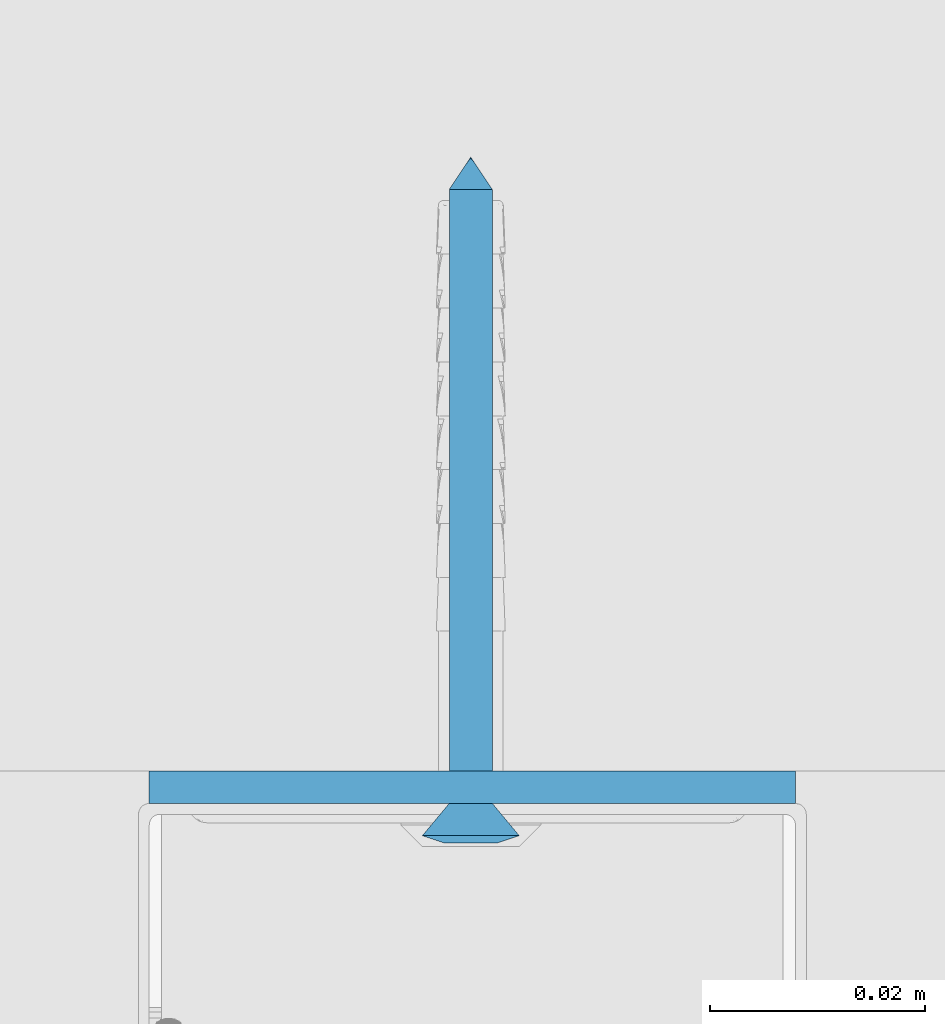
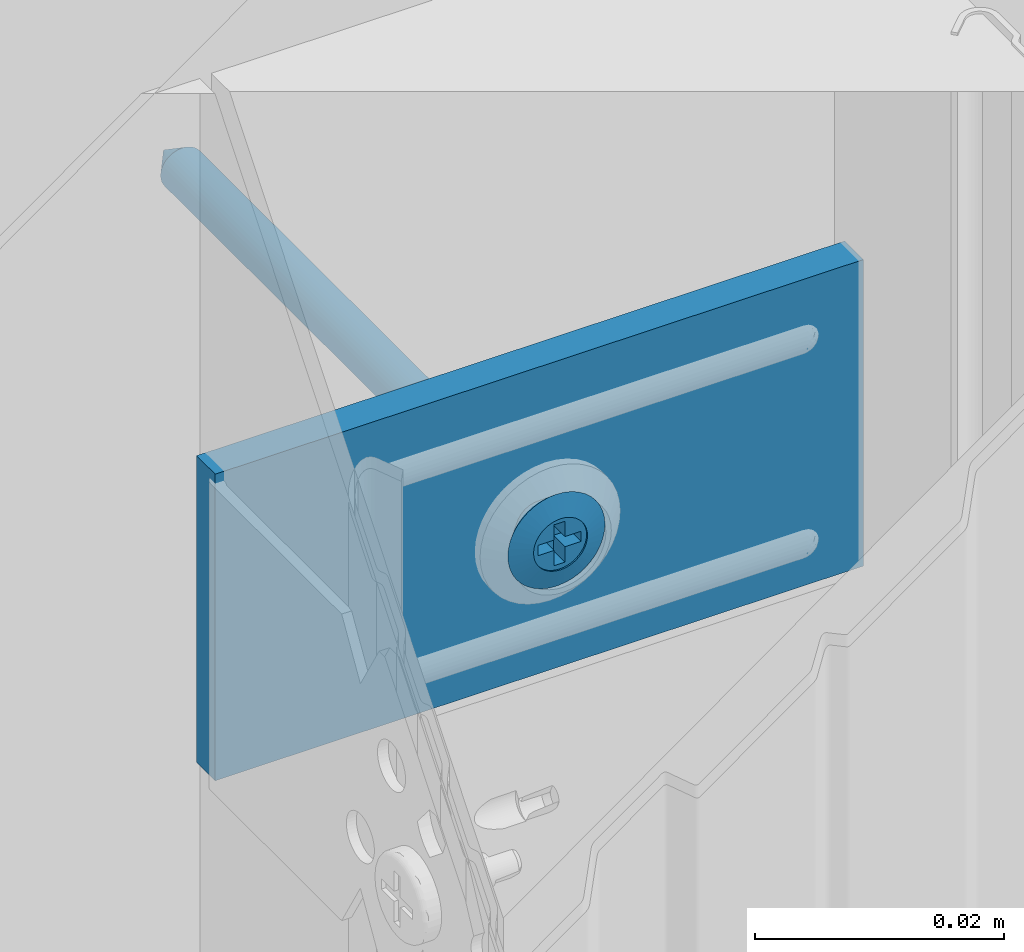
# One storey, part 36 of 47: 2 walls.
"""IFC2X3 building model written with IfcOpenShell, lengths in millimetres."""

from ifc_helpers import new_model, entity, si_unit, converted_unit, direction, frame, origin, origin_with_axes, place, context, project, spatial, faceted_brep, element, save


model = new_model("IFC2X3")

# Units and contexts
model_context = context("Model", 3, precision=1e-05, world=origin(), true_north=direction((0.0, 1.0, 0.0)))
ifc_project = project(units=[si_unit("LENGTHUNIT", "METRE", prefix="MILLI"), si_unit("AREAUNIT", "SQUARE_METRE"), si_unit("VOLUMEUNIT", "CUBIC_METRE"), converted_unit("PLANEANGLEUNIT", "DEGREE", entity("IfcPlaneAngleMeasure", 0.01745), si_unit("PLANEANGLEUNIT", "RADIAN"), dimensions=[0, 0, 0, 0, 0, 0, 0]), si_unit("SOLIDANGLEUNIT", "STERADIAN"), si_unit("MASSUNIT", "GRAM"), si_unit("TIMEUNIT", "SECOND"), si_unit("THERMODYNAMICTEMPERATUREUNIT", "DEGREE_CELSIUS"), si_unit("LUMINOUSINTENSITYUNIT", "LUMEN")], contexts=[model_context])

# Site, building, storey
site_placement = place(None, origin_with_axes())
site = spatial("IfcSite", under=ifc_project, at=site_placement, Name="Default Site", CompositionType="ELEMENT")
building_placement = place(site_placement, origin_with_axes())
building = spatial("IfcBuilding", under=site, at=building_placement, Name="Default Building", CompositionType="ELEMENT")
storey_placement = place(building_placement, origin_with_axes())
storey = spatial("IfcBuildingStorey", under=building, at=storey_placement, Name="Default Building Storey", CompositionType="ELEMENT", Elevation=0.0)

# Walls
wall_1_placement = place(storey_placement, frame((6356.176283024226, 2016.32861108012, 2539.671890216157), z_axis=(-6.858158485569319e-13, -1.0, 7.642380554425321e-14), x_axis=(-1.647602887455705e-11, 7.642380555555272e-14, 1.0)))
element("IfcWall", 1, at=wall_1_placement, inside=storey, Name="Kołek rozporowy min. fi 6", context=model_context, shape_type="Brep", body=[
    faceted_brep([(-1438.31414949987, 3453.283223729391, -0.4642567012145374), (-1435.814149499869, 3453.283223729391, -3.464256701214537), (-1435.78952618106, 3452.97035479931, -3.464256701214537), (-1438.258747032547, 3452.57926863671, -0.4642567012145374), (-1435.71626253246, 3452.665189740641, -3.464256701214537), (-1438.093903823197, 3451.892647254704, -0.4642567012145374), (-1435.596162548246, 3452.375242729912, -3.464256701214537), (-1437.823678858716, 3451.240266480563, -0.4642567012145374), (-1435.432183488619, 3452.107653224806, -3.464256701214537), (-1437.454725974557, 3450.638190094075, -0.4642567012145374), (-1435.228363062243, 3451.869010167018, -3.464256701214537), (-1436.996130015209, 3450.101243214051, -0.4642567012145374), (-1434.989720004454, 3451.665189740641, -3.464256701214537), (-1436.459183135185, 3449.642647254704, -0.4642567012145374), (-1434.722130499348, 3451.501210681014, -3.464256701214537), (-1435.857106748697, 3449.273694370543, -0.4642567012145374), (-1434.432183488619, 3451.381110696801, -3.464256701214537), (-1435.204725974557, 3449.003469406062, -0.4642567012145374), (-1434.12701842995, 3451.307847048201, -3.464256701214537), (-1434.51810459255, 3448.838626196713, -0.4642567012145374), (-1433.814149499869, 3451.283223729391, -3.464256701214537), (-1433.814149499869, 3448.783223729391, -0.4642567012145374), (-1433.501280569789, 3451.307847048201, -3.464256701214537), (-1433.110194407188, 3448.838626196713, -0.4642567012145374), (-1433.19611551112, 3451.381110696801, -3.464256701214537), (-1432.423573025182, 3449.003469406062, -0.4642567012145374), (-1432.906168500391, 3451.501210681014, -3.464256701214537), (-1431.771192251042, 3449.273694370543, -0.4642567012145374), (-1432.638578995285, 3451.665189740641, -3.464256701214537), (-1431.169115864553, 3449.642647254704, -0.4642567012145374), (-1432.399935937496, 3451.869010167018, -3.464256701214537), (-1430.63216898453, 3450.101243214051, -0.4642567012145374), (-1432.196115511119, 3452.107653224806, -3.464256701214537), (-1430.173573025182, 3450.638190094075, -0.4642567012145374), (-1432.032136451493, 3452.375242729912, -3.464256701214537), (-1429.804620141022, 3451.240266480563, -0.4642567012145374), (-1431.912036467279, 3452.665189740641, -3.464256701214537), (-1429.534395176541, 3451.892647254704, -0.4642567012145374), (-1431.838772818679, 3453.596092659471, -3.464256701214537), (-1429.369551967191, 3453.987178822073, -0.4642567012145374), (-1429.314149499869, 3453.283223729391, -0.4642567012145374), (-1431.81414949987, 3453.283223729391, -3.464256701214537), (-1429.369551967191, 3452.57926863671, -0.4642567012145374), (-1431.838772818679, 3452.97035479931, -3.464256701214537), (-1431.912036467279, 3453.901257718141, -3.464256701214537), (-1429.534395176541, 3454.673800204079, -0.4642567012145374), (-1432.032136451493, 3454.19120472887, -3.464256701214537), (-1429.804620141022, 3455.326180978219, -0.4642567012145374), (-1432.196115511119, 3454.458794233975, -3.464256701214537), (-1430.173573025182, 3455.928257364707, -0.4642567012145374), (-1432.399935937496, 3454.697437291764, -3.464256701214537), (-1430.63216898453, 3456.465204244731, -0.4642567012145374), (-1432.638578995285, 3454.901257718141, -3.464256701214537), (-1431.169115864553, 3456.923800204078, -0.4642567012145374), (-1432.906168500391, 3455.065236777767, -3.464256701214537), (-1431.771192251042, 3457.292753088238, -0.4642567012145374), (-1433.19611551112, 3455.185336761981, -3.464256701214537), (-1432.423573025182, 3457.562978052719, -0.4642567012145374), (-1433.501280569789, 3455.258600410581, -3.464256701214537), (-1433.110194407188, 3457.727821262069, -0.4642567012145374), (-1433.814149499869, 3455.283223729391, -3.464256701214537), (-1433.814149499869, 3457.783223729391, -0.4642567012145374), (-1434.34306778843, 3457.752031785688, -0.4642567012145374), (-1434.12701842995, 3455.258600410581, -3.464256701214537), (-1434.432183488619, 3455.185336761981, -3.464256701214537), (-1434.864653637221, 3457.658888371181, -0.4642567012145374), (-1435.371676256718, 3457.505084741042, -0.4642567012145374), (-1434.722130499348, 3455.065236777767, -3.464256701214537), (-1435.857106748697, 3457.292753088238, -0.4642567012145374), (-1434.989720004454, 3454.901257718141, -3.464256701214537), (-1435.228363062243, 3454.697437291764, -3.464256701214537), (-1436.314215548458, 3457.024836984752, -0.4642567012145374), (-1436.736665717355, 3456.705050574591, -0.4642567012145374), (-1437.11860079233, 3456.337827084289, -0.4642567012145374), (-1437.454725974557, 3455.928257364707, -0.4642567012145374), (-1435.432183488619, 3454.458794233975, -3.464256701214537), (-1435.596162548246, 3454.19120472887, -3.464256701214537), (-1437.823678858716, 3455.326180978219, -0.4642567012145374), (-1435.71626253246, 3453.901257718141, -3.464256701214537), (-1438.093903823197, 3454.673800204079, -0.4642567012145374), (-1435.78952618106, 3453.596092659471, -3.464256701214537), (-1438.258747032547, 3453.987178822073, -0.4642567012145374), (-1434.205235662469, 3455.752444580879, 0.2007375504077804), (-1433.814149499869, 3455.78322372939, 0.2007375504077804), (-1434.586691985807, 3455.660865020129, 0.2007375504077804), (-1434.949125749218, 3455.510740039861, 0.2007375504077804), (-1435.283612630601, 3455.305766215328, 0.2007375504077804), (-1435.581916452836, 3455.050990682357, 0.2007375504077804), (-1435.836691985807, 3454.752686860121, 0.2007375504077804), (-1436.04166581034, 3454.41819997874, 0.2007375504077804), (-1436.191790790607, 3454.055766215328, 0.2007375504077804), (-1436.283370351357, 3453.674309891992, 0.2007375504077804), (-1436.314149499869, 3453.283223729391, 0.2007375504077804), (-1436.283370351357, 3452.892137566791, 0.2007375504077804), (-1436.191790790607, 3452.510681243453, 0.2007375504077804), (-1436.04166581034, 3452.148247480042, 0.2007375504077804), (-1435.836691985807, 3451.81376059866, 0.200737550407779), (-1435.581916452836, 3451.515456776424, 0.2007375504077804), (-1435.283612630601, 3451.260681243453, 0.2007375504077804), (-1434.949125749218, 3451.05570741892, 0.2007375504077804), (-1434.586691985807, 3450.905582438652, 0.2007375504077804), (-1433.423063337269, 3450.814002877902, 0.2007375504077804), (-1433.814149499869, 3450.783223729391, 0.2007375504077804), (-1434.205235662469, 3450.814002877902, 0.2007375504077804), (-1433.041607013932, 3450.905582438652, 0.2007375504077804), (-1432.67917325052, 3451.05570741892, 0.2007375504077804), (-1432.344686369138, 3451.260681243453, 0.2007375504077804), (-1432.046382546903, 3451.515456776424, 0.2007375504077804), (-1431.791607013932, 3451.81376059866, 0.2007375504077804), (-1431.586633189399, 3452.148247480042, 0.2007375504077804), (-1431.436508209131, 3452.510681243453, 0.2007375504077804), (-1431.344928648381, 3452.892137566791, 0.2007375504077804), (-1431.314149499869, 3453.283223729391, 0.2007375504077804), (-1431.344928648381, 3453.674309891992, 0.2007375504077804), (-1431.436508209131, 3454.055766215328, 0.2007375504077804), (-1431.586633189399, 3454.41819997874, 0.2007375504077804), (-1431.791607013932, 3454.752686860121, 0.2007375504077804), (-1432.046382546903, 3455.050990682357, 0.2007375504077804), (-1432.344686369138, 3455.305766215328, 0.2007375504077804), (-1432.67917325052, 3455.510740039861, 0.2007375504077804), (-1433.041607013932, 3455.660865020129, 0.2007375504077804), (-1433.423063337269, 3455.752444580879, 0.2007375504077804), (-1433.814149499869, 3453.283223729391, -63.46425670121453), (-1435.789526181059, 3452.97035479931, -60.46425670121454), (-1435.814149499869, 3453.283223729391, -60.46425670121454), (-1435.716262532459, 3452.665189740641, -60.46425670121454), (-1435.596162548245, 3452.375242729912, -60.46425670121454), (-1435.432183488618, 3452.107653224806, -60.46425670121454), (-1435.228363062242, 3451.869010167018, -60.46425670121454), (-1434.989720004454, 3451.665189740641, -60.46425670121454), (-1434.722130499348, 3451.501210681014, -60.46425670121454), (-1434.432183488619, 3451.381110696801, -60.46425670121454), (-1434.127018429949, 3451.307847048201, -60.46425670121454), (-1433.814149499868, 3451.283223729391, -60.46425670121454), (-1433.501280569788, 3451.307847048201, -60.46425670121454), (-1433.196115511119, 3451.381110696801, -60.46425670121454), (-1432.90616850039, 3451.501210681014, -60.46425670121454), (-1432.638578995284, 3451.665189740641, -60.46425670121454), (-1432.399935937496, 3451.869010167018, -60.46425670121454), (-1432.196115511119, 3452.107653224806, -60.46425670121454), (-1432.032136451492, 3452.375242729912, -60.46425670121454), (-1431.912036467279, 3452.665189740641, -60.46425670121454), (-1431.838772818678, 3452.97035479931, -60.46425670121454), (-1431.814149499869, 3453.283223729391, -60.46425670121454), (-1431.838772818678, 3453.596092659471, -60.46425670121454), (-1431.912036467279, 3453.901257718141, -60.46425670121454), (-1432.032136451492, 3454.19120472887, -60.46425670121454), (-1432.196115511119, 3454.458794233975, -60.46425670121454), (-1432.399935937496, 3454.697437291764, -60.46425670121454), (-1432.638578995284, 3454.901257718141, -60.46425670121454), (-1432.90616850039, 3455.065236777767, -60.46425670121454), (-1433.196115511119, 3455.185336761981, -60.46425670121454), (-1433.501280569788, 3455.258600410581, -60.46425670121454), (-1433.814149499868, 3455.283223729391, -60.46425670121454), (-1434.127018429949, 3455.258600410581, -60.46425670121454), (-1434.432183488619, 3455.185336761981, -60.46425670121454), (-1434.722130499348, 3455.065236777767, -60.46425670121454), (-1434.989720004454, 3454.901257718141, -60.46425670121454), (-1435.228363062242, 3454.697437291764, -60.46425670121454), (-1435.432183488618, 3454.458794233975, -60.46425670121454), (-1435.596162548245, 3454.19120472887, -60.46425670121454), (-1435.716262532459, 3453.901257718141, -60.46425670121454), (-1435.789526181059, 3453.596092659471, -60.46425670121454), (-1435.814149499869, 3453.783223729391, 0.04999999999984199), (-1436.04166581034, 3454.41819997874, 0.04999999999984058), (-1436.191790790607, 3454.055766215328, 0.04999999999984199), (-1435.814149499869, 3452.783223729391, 0.04999999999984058), (-1434.314149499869, 3453.783223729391, 0.04999999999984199), (-1434.314149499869, 3455.28322372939, 0.04999999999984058), (-1433.314149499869, 3455.28322372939, 0.04999999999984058), (-1433.314149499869, 3453.783223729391, 0.04999999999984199), (-1431.814149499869, 3453.783223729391, 0.04999999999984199), (-1431.814149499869, 3452.783223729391, 0.04999999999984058), (-1433.314149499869, 3452.783223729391, 0.04999999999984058), (-1433.314149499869, 3451.283223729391, 0.04999999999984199), (-1434.314149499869, 3451.283223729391, 0.04999999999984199), (-1434.314149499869, 3452.783223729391, 0.04999999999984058), (-1436.283370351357, 3453.674309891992, 0.04999999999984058), (-1436.314149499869, 3453.283223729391, 0.04999999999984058), (-1436.283370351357, 3452.892137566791, 0.04999999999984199), (-1436.191790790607, 3452.510681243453, 0.04999999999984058), (-1436.04166581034, 3452.148247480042, 0.04999999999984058), (-1435.836691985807, 3451.81376059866, 0.04999999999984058), (-1435.581916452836, 3451.515456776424, 0.04999999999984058), (-1435.283612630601, 3451.260681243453, 0.04999999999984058), (-1434.949125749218, 3451.05570741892, 0.04999999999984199), (-1434.586691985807, 3450.905582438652, 0.04999999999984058), (-1434.205235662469, 3450.814002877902, 0.04999999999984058), (-1433.814149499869, 3450.783223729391, 0.04999999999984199), (-1433.423063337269, 3450.814002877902, 0.04999999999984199), (-1433.041607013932, 3450.905582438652, 0.04999999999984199), (-1432.67917325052, 3451.05570741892, 0.04999999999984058), (-1432.344686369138, 3451.260681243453, 0.04999999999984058), (-1432.046382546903, 3451.515456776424, 0.04999999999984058), (-1431.791607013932, 3451.81376059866, 0.04999999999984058), (-1431.586633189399, 3452.148247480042, 0.04999999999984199), (-1431.436508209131, 3452.510681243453, 0.04999999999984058), (-1431.344928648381, 3452.892137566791, 0.04999999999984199), (-1431.314149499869, 3453.283223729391, 0.04999999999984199), (-1431.344928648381, 3453.674309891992, 0.04999999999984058), (-1431.436508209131, 3454.055766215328, 0.04999999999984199), (-1431.586633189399, 3454.41819997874, 0.04999999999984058), (-1431.791607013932, 3454.752686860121, 0.04999999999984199), (-1432.046382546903, 3455.050990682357, 0.04999999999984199), (-1432.344686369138, 3455.305766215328, 0.04999999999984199), (-1432.67917325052, 3455.510740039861, 0.04999999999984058), (-1433.041607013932, 3455.660865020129, 0.04999999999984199), (-1433.423063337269, 3455.752444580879, 0.04999999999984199), (-1433.814149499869, 3455.78322372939, 0.04999999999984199), (-1434.205235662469, 3455.752444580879, 0.04999999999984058), (-1434.586691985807, 3455.660865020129, 0.04999999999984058), (-1434.949125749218, 3455.510740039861, 0.04999999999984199), (-1435.283612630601, 3455.305766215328, 0.04999999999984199), (-1435.581916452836, 3455.050990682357, 0.04999999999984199), (-1435.836691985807, 3454.752686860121, 0.04999999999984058), (-1434.314149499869, 3452.783223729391, -1.79926244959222), (-1434.314149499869, 3451.283223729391, -1.799262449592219), (-1433.314149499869, 3451.283223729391, -1.799262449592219), (-1433.314149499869, 3452.783223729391, -1.79926244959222), (-1431.81414949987, 3452.783223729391, -1.79926244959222), (-1431.81414949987, 3453.783223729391, -1.799262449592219), (-1433.314149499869, 3453.783223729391, -1.799262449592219), (-1433.314149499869, 3455.28322372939, -1.79926244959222), (-1434.314149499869, 3455.28322372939, -1.79926244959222), (-1434.314149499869, 3453.783223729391, -1.799262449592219), (-1435.814149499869, 3453.783223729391, -1.799262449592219), (-1435.814149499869, 3452.783223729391, -1.79926244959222)], [[[0, 1, 2, 3]], [[4, 5, 3, 2]], [[6, 7, 5, 4]], [[7, 6, 8, 9]], [[10, 11, 9, 8]], [[11, 10, 12, 13]], [[14, 15, 13, 12]], [[16, 17, 15, 14]], [[17, 16, 18, 19]], [[20, 21, 19, 18]], [[21, 20, 22, 23]], [[24, 25, 23, 22]], [[26, 27, 25, 24]], [[27, 26, 28, 29]], [[30, 31, 29, 28]], [[31, 30, 32, 33]], [[34, 35, 33, 32]], [[36, 37, 35, 34]], [[38, 39, 40, 41]], [[41, 40, 42, 43]], [[37, 36, 43, 42]], [[44, 45, 39, 38]], [[46, 47, 45, 44]], [[47, 46, 48, 49]], [[50, 51, 49, 48]], [[51, 50, 52, 53]], [[54, 55, 53, 52]], [[56, 57, 55, 54]], [[57, 56, 58, 59]], [[60, 61, 59, 58]], [[62, 61, 63]], [[61, 60, 63]], [[63, 64, 62]], [[64, 65, 62]], [[66, 65, 64]], [[64, 67, 66]], [[67, 68, 66]], [[69, 70, 71]], [[70, 72, 71]], [[71, 68, 69]], [[68, 67, 69]], [[70, 73, 72]], [[74, 73, 75]], [[73, 70, 75]], [[76, 77, 74, 75]], [[78, 79, 77, 76]], [[79, 78, 80, 81]], [[1, 0, 81, 80]], [[82, 83, 62]], [[83, 61, 62]], [[62, 65, 82]], [[65, 84, 82]], [[66, 68, 84]], [[68, 85, 84]], [[84, 65, 66]], [[86, 85, 71]], [[85, 68, 71]], [[72, 73, 87]], [[87, 86, 72]], [[86, 71, 72]], [[88, 87, 74]], [[87, 73, 74]], [[77, 89, 88, 74]], [[79, 90, 89, 77]], [[90, 79, 81, 91]], [[0, 92, 91, 81]], [[92, 0, 3, 93]], [[5, 94, 93, 3]], [[7, 95, 94, 5]], [[95, 7, 9, 96]], [[11, 97, 96, 9]], [[97, 11, 13, 98]], [[15, 99, 98, 13]], [[17, 100, 99, 15]], [[23, 101, 102, 21]], [[21, 102, 103, 19]], [[100, 17, 19, 103]], [[25, 104, 101, 23]], [[27, 105, 104, 25]], [[105, 27, 29, 106]], [[31, 107, 106, 29]], [[107, 31, 33, 108]], [[35, 109, 108, 33]], [[37, 110, 109, 35]], [[110, 37, 42, 111]], [[40, 112, 111, 42]], [[112, 40, 39, 113]], [[45, 114, 113, 39]], [[47, 115, 114, 45]], [[115, 47, 49, 116]], [[51, 117, 116, 49]], [[117, 51, 53, 118]], [[55, 119, 118, 53]], [[57, 120, 119, 55]], [[120, 57, 59, 121]], [[61, 83, 121, 59]], [[122, 123, 124]], [[122, 125, 123]], [[122, 126, 125]], [[127, 126, 122]], [[122, 128, 127]], [[129, 128, 122]], [[122, 130, 129]], [[122, 131, 130]], [[132, 131, 122]], [[122, 133, 132]], [[134, 133, 122]], [[122, 135, 134]], [[122, 136, 135]], [[137, 136, 122]], [[122, 138, 137]], [[139, 138, 122]], [[122, 140, 139]], [[122, 141, 140]], [[142, 141, 122]], [[122, 143, 142]], [[144, 143, 122]], [[122, 145, 144]], [[122, 146, 145]], [[147, 146, 122]], [[122, 148, 147]], [[149, 148, 122]], [[122, 150, 149]], [[122, 151, 150]], [[152, 151, 122]], [[122, 153, 152]], [[154, 153, 122]], [[122, 155, 154]], [[122, 156, 155]], [[157, 156, 122]], [[122, 158, 157]], [[159, 158, 122]], [[122, 160, 159]], [[122, 161, 160]], [[162, 161, 122]], [[124, 162, 122]], [[1, 124, 123, 2]], [[125, 4, 2, 123]], [[126, 6, 4, 125]], [[6, 126, 127, 8]], [[128, 10, 8, 127]], [[10, 128, 129, 12]], [[130, 14, 12, 129]], [[131, 16, 14, 130]], [[16, 131, 132, 18]], [[133, 20, 18, 132]], [[20, 133, 134, 22]], [[135, 24, 22, 134]], [[136, 26, 24, 135]], [[26, 136, 137, 28]], [[138, 30, 28, 137]], [[30, 138, 139, 32]], [[140, 34, 32, 139]], [[141, 36, 34, 140]], [[144, 38, 41, 143]], [[143, 41, 43, 142]], [[36, 141, 142, 43]], [[145, 44, 38, 144]], [[146, 46, 44, 145]], [[46, 146, 147, 48]], [[148, 50, 48, 147]], [[50, 148, 149, 52]], [[150, 54, 52, 149]], [[151, 56, 54, 150]], [[56, 151, 152, 58]], [[153, 60, 58, 152]], [[60, 153, 154, 63]], [[155, 64, 63, 154]], [[156, 67, 64, 155]], [[67, 156, 157, 69]], [[158, 70, 69, 157]], [[70, 158, 159, 75]], [[160, 76, 75, 159]], [[161, 78, 76, 160]], [[78, 161, 162, 80]], [[124, 1, 80, 162]], [[163, 164, 165, 166]], [[163, 167, 168, 169, 170, 171, 172, 173, 174, 175, 176, 166, 165, 177, 178, 179, 180, 181, 182, 183, 184, 185, 186, 187, 188, 189, 190, 191, 192, 193, 194, 195, 196, 197, 198, 199, 200, 201, 202, 203, 204, 205, 206, 207, 208, 209, 210, 211, 212, 213, 214, 164]], [[199, 198, 112, 113]], [[113, 114, 200, 199]], [[114, 115, 201, 200]], [[202, 201, 115, 116]], [[116, 117, 203, 202]], [[204, 203, 117, 118]], [[118, 119, 205, 204]], [[119, 120, 206, 205]], [[207, 206, 120, 121]], [[121, 83, 208, 207]], [[209, 208, 83, 82]], [[82, 84, 210, 209]], [[84, 85, 211, 210]], [[212, 211, 85, 86]], [[86, 87, 213, 212]], [[214, 213, 87, 88]], [[88, 89, 164, 214]], [[89, 90, 165, 164]], [[92, 93, 179, 178]], [[91, 92, 178, 177]], [[177, 165, 90, 91]], [[93, 94, 180, 179]], [[94, 95, 181, 180]], [[182, 181, 95, 96]], [[96, 97, 183, 182]], [[184, 183, 97, 98]], [[98, 99, 185, 184]], [[99, 100, 186, 185]], [[187, 186, 100, 103]], [[103, 102, 188, 187]], [[189, 188, 102, 101]], [[101, 104, 190, 189]], [[104, 105, 191, 190]], [[192, 191, 105, 106]], [[106, 107, 193, 192]], [[194, 193, 107, 108]], [[108, 109, 195, 194]], [[109, 110, 196, 195]], [[197, 196, 110, 111]], [[111, 112, 198, 197]], [[215, 216, 217, 218, 219, 220, 221, 222, 223, 224, 225, 226]], [[216, 175, 174, 217]], [[215, 176, 175, 216]], [[226, 166, 176, 215]], [[225, 163, 166, 226]], [[224, 167, 163, 225]], [[223, 168, 167, 224]], [[222, 169, 168, 223]], [[221, 170, 169, 222]], [[220, 171, 170, 221]], [[219, 172, 171, 220]], [[218, 173, 172, 219]], [[217, 174, 173, 218]]]),
])
wall_2_placement = place(storey_placement, frame((2873.037086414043, 2019.778611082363, 1120.960248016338), z_axis=(0.0, 0.0, 1.0), x_axis=(1.0, 0.0, 0.0)))
element("IfcWall", 2, at=wall_2_placement, inside=storey, Name="Taśma uszczelniająca piankowa RIGIPS szer.30mm", context=model_context, shape_type="Brep", body=[
    faceted_brep([(59.99999999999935, 0.0, 4.511946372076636e-12), (0.0, 0.0, 0.0), (1.082867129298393e-12, -2.237925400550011e-11, -30.00000000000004), (60.00000000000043, -2.237925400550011e-11, -29.99999999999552), (0.0, 3.00000000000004, 0.0), (1.082867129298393e-12, 2.999999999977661, -30.00000000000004), (60.00000000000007, 3.00000000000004, 0.0), (60.00000000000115, 2.999999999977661, -30.00000000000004)], [[[0, 1, 2, 3]], [[1, 4, 5, 2]], [[4, 6, 7, 5]], [[6, 0, 3, 7]], [[7, 3, 2, 5]], [[0, 6, 4, 1]]]),
])

save(model, "model.ifc")
